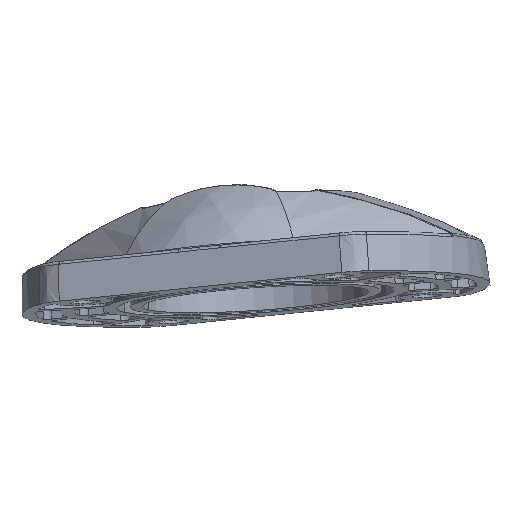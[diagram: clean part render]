
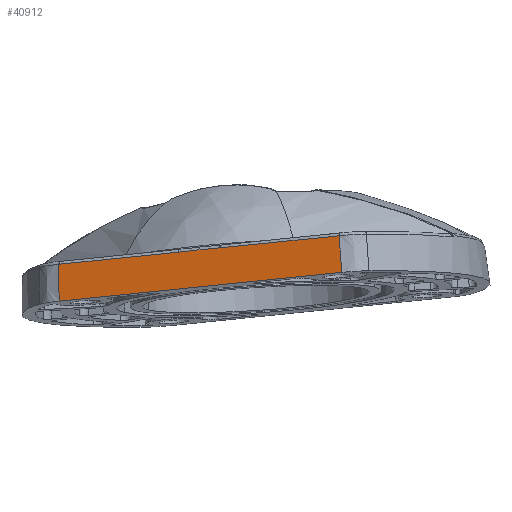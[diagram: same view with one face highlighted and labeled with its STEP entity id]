
A CAD part, top view. The second image highlights one B-rep face of the part: STEP entity #40912.
In plain terms, the highlighted planar face has unit normal (-0.336, 0.158, 0.929) as drawn and (0, -0.996, 0.087) by its records, which use the part's own axes.
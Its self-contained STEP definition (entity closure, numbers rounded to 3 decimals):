
#62 = EDGE_CURVE ( 'NONE', #39064, #1513, #11320, .T. ) ;
#543 = CARTESIAN_POINT ( 'NONE',  ( 164.369, -49.03, 11.087 ) ) ;
#1302 = VERTEX_POINT ( 'NONE', #35657 ) ;
#1513 = VERTEX_POINT ( 'NONE', #8908 ) ;
#1940 = ORIENTED_EDGE ( 'NONE', *, *, #23606, .T. ) ;
#3029 = CARTESIAN_POINT ( 'NONE',  ( 126.697, -49.03, 11.087 ) ) ;
#3596 = EDGE_CURVE ( 'NONE', #27629, #36081, #15586, .T. ) ;
#3803 = CARTESIAN_POINT ( 'NONE',  ( 169.898, -49.025, 11.141 ) ) ;
#5221 = VECTOR ( 'NONE', #7884, 1000. ) ;
#7884 = DIRECTION ( 'NONE',  ( -0.039, 0.087, 0.995 ) ) ;
#8543 = CARTESIAN_POINT ( 'NONE',  ( 171., -50., 0. ) ) ;
#8908 = CARTESIAN_POINT ( 'NONE',  ( 215.303, -49.03, 11.087 ) ) ;
#11320 = LINE ( 'NONE', #38019, #35884 ) ;
#11740 = ORIENTED_EDGE ( 'NONE', *, *, #62, .F. ) ;
#12067 = CARTESIAN_POINT ( 'NONE',  ( 172.323, -49.025, 11.141 ) ) ;
#12196 = EDGE_CURVE ( 'NONE', #34113, #27629, #29337, .T. ) ;
#13311 = CARTESIAN_POINT ( 'NONE',  ( 166.587, -49.029, 11.104 ) ) ;
#13315 = DIRECTION ( 'NONE',  ( 1., 0., 0. ) ) ;
#13528 = CARTESIAN_POINT ( 'NONE',  ( 164.369, -49.03, 11.087 ) ) ;
#13749 = LINE ( 'NONE', #14061, #5221 ) ;
#14032 = VERTEX_POINT ( 'NONE', #21902 ) ;
#14061 = CARTESIAN_POINT ( 'NONE',  ( 215.303, -49.03, 11.087 ) ) ;
#14626 = PLANE ( 'NONE',  #33115 ) ;
#14911 = CARTESIAN_POINT ( 'NONE',  ( 126.262, -50., 0. ) ) ;
#15559 = CARTESIAN_POINT ( 'NONE',  ( 174.97, -49.028, 11.108 ) ) ;
#15586 = B_SPLINE_CURVE_WITH_KNOTS ( 'NONE', 3,
 ( #543, #32403, #13311, #23016, #3803, #26258 ),
 .UNSPECIFIED., .F., .F.,
 ( 4, 2, 4 ),
 ( 0., 0.5, 1. ),
 .UNSPECIFIED. ) ;
#16674 = FACE_OUTER_BOUND ( 'NONE', #31752, .T. ) ;
#17406 = ORIENTED_EDGE ( 'NONE', *, *, #35036, .F. ) ;
#17860 = DIRECTION ( 'NONE',  ( 0., 0.996, -0.087 ) ) ;
#18805 = CARTESIAN_POINT ( 'NONE',  ( 177.631, -49.03, 11.087 ) ) ;
#18859 = B_SPLINE_CURVE_WITH_KNOTS ( 'NONE', 5,
 ( #34497, #12067, #34760, #15559, #37978, #18805 ),
 .UNSPECIFIED., .F., .F.,
 ( 6, 6 ),
 ( 0., 1. ),
 .UNSPECIFIED. ) ;
#19110 = ORIENTED_EDGE ( 'NONE', *, *, #25519, .T. ) ;
#19294 = VECTOR ( 'NONE', #34127, 1000. ) ;
#21902 = CARTESIAN_POINT ( 'NONE',  ( 215.738, -50., 0. ) ) ;
#23016 = CARTESIAN_POINT ( 'NONE',  ( 168.796, -49.026, 11.131 ) ) ;
#23456 = DIRECTION ( 'NONE',  ( 1., 0., 0. ) ) ;
#23606 = EDGE_CURVE ( 'NONE', #1302, #14032, #29878, .T. ) ;
#23757 = EDGE_CURVE ( 'NONE', #36081, #39064, #18859, .T. ) ;
#24671 = ORIENTED_EDGE ( 'NONE', *, *, #12196, .F. ) ;
#25519 = EDGE_CURVE ( 'NONE', #14032, #1513, #13749, .T. ) ;
#26258 = CARTESIAN_POINT ( 'NONE',  ( 171., -49.025, 11.141 ) ) ;
#26841 = CARTESIAN_POINT ( 'NONE',  ( 177.631, -49.03, 11.087 ) ) ;
#26887 = CARTESIAN_POINT ( 'NONE',  ( 171., -50., 0. ) ) ;
#27629 = VERTEX_POINT ( 'NONE', #13528 ) ;
#29337 = LINE ( 'NONE', #38831, #37819 ) ;
#29878 = LINE ( 'NONE', #8543, #39381 ) ;
#31752 = EDGE_LOOP ( 'NONE', ( #32329, #41638, #24671, #17406, #1940, #19110, #11740 ) ) ;
#32329 = ORIENTED_EDGE ( 'NONE', *, *, #23757, .F. ) ;
#32344 = LINE ( 'NONE', #14911, #19294 ) ;
#32403 = CARTESIAN_POINT ( 'NONE',  ( 165.48, -49.03, 11.087 ) ) ;
#33115 = AXIS2_PLACEMENT_3D ( 'NONE', #26887, #17860, #40285 ) ;
#34113 = VERTEX_POINT ( 'NONE', #3029 ) ;
#34127 = DIRECTION ( 'NONE',  ( 0.039, 0.087, 0.995 ) ) ;
#34497 = CARTESIAN_POINT ( 'NONE',  ( 171., -49.025, 11.141 ) ) ;
#34541 = DIRECTION ( 'NONE',  ( 1., 0., 0. ) ) ;
#34760 = CARTESIAN_POINT ( 'NONE',  ( 173.645, -49.026, 11.13 ) ) ;
#35036 = EDGE_CURVE ( 'NONE', #1302, #34113, #32344, .T. ) ;
#35657 = CARTESIAN_POINT ( 'NONE',  ( 126.262, -50., 0. ) ) ;
#35884 = VECTOR ( 'NONE', #34541, 1000. ) ;
#36081 = VERTEX_POINT ( 'NONE', #37210 ) ;
#37210 = CARTESIAN_POINT ( 'NONE',  ( 171., -49.025, 11.141 ) ) ;
#37819 = VECTOR ( 'NONE', #13315, 1000. ) ;
#37978 = CARTESIAN_POINT ( 'NONE',  ( 176.298, -49.03, 11.087 ) ) ;
#38019 = CARTESIAN_POINT ( 'NONE',  ( 177.631, -49.03, 11.087 ) ) ;
#38831 = CARTESIAN_POINT ( 'NONE',  ( 171., -49.03, 11.087 ) ) ;
#39064 = VERTEX_POINT ( 'NONE', #26841 ) ;
#39381 = VECTOR ( 'NONE', #23456, 1000. ) ;
#40285 = DIRECTION ( 'NONE',  ( 0., 0.087, 0.996 ) ) ;
#40912 = ADVANCED_FACE ( 'NONE', ( #16674 ), #14626, .F. ) ;
#41638 = ORIENTED_EDGE ( 'NONE', *, *, #3596, .F. ) ;
